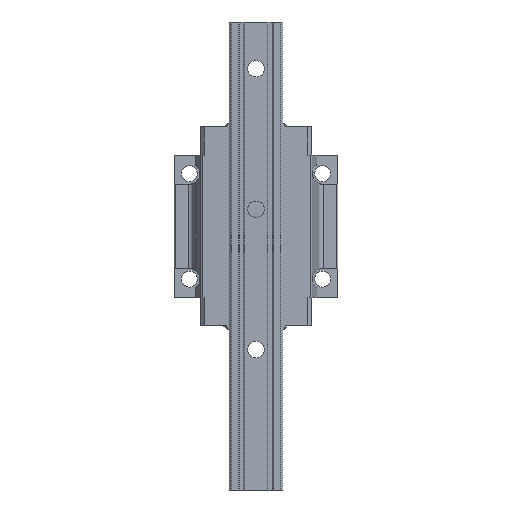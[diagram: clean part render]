
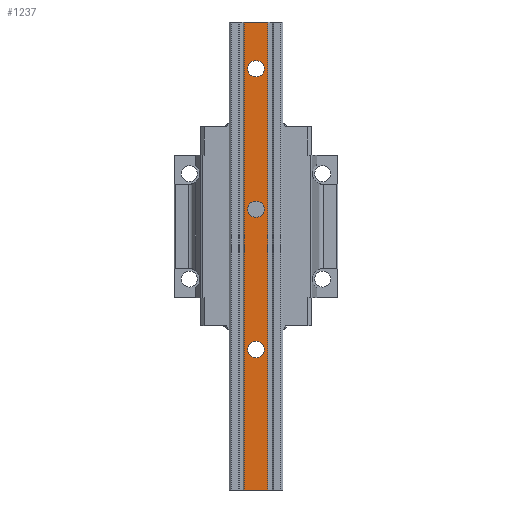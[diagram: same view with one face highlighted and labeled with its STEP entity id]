
A CAD part, front view. The second image highlights one B-rep face of the part: STEP entity #1237.
In plain terms, the highlighted planar face has unit normal (0, -1, 0).
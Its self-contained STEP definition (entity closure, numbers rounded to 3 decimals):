
#1237=ADVANCED_FACE('',(#3531,#3532,#3533,#3534),#1745,.F.);
#1745=PLANE('',#9448);
#1977=LINE('',#12319,#2697);
#1978=LINE('',#12322,#2698);
#1979=LINE('',#12324,#2699);
#1980=LINE('',#12326,#2700);
#2697=VECTOR('',#10130,1.);
#2698=VECTOR('',#10131,1.);
#2699=VECTOR('',#10132,1.);
#2700=VECTOR('',#10133,1.);
#3531=FACE_BOUND('',#3705,.T.);
#3532=FACE_BOUND('',#3706,.T.);
#3533=FACE_BOUND('',#3707,.T.);
#3534=FACE_BOUND('',#3708,.T.);
#3705=EDGE_LOOP('',(#4311));
#3706=EDGE_LOOP('',(#4312));
#3707=EDGE_LOOP('',(#4313));
#3708=EDGE_LOOP('',(#4314,#4315,#4316,#4317));
#4311=ORIENTED_EDGE('',*,*,#7844,.F.);
#4312=ORIENTED_EDGE('',*,*,#7845,.F.);
#4313=ORIENTED_EDGE('',*,*,#7846,.F.);
#4314=ORIENTED_EDGE('',*,*,#7847,.F.);
#4315=ORIENTED_EDGE('',*,*,#7848,.T.);
#4316=ORIENTED_EDGE('',*,*,#7849,.T.);
#4317=ORIENTED_EDGE('',*,*,#7850,.F.);
#6941=VERTEX_POINT('',#12314);
#6942=VERTEX_POINT('',#12316);
#6943=VERTEX_POINT('',#12318);
#6944=VERTEX_POINT('',#12320);
#6945=VERTEX_POINT('',#12321);
#6946=VERTEX_POINT('',#12323);
#6947=VERTEX_POINT('',#12325);
#7844=EDGE_CURVE('',#6941,#6941,#9159,.T.);
#7845=EDGE_CURVE('',#6942,#6942,#9160,.T.);
#7846=EDGE_CURVE('',#6943,#6943,#9161,.T.);
#7847=EDGE_CURVE('',#6944,#6945,#1977,.T.);
#7848=EDGE_CURVE('',#6944,#6946,#1978,.T.);
#7849=EDGE_CURVE('',#6946,#6947,#1979,.T.);
#7850=EDGE_CURVE('',#6945,#6947,#1980,.T.);
#9159=CIRCLE('',#9445,3.5);
#9160=CIRCLE('',#9446,3.5);
#9161=CIRCLE('',#9447,3.5);
#9445=AXIS2_PLACEMENT_3D('',#12313,#10124,#10125);
#9446=AXIS2_PLACEMENT_3D('',#12315,#10126,#10127);
#9447=AXIS2_PLACEMENT_3D('',#12317,#10128,#10129);
#9448=AXIS2_PLACEMENT_3D('',#12327,#10134,#10135);
#10124=DIRECTION('',(0.,-1.,0.));
#10125=DIRECTION('',(0.,0.,-1.));
#10126=DIRECTION('',(0.,-1.,0.));
#10127=DIRECTION('',(0.,0.,-1.));
#10128=DIRECTION('',(0.,-1.,0.));
#10129=DIRECTION('',(0.,0.,-1.));
#10130=DIRECTION('',(1.,0.,0.));
#10131=DIRECTION('',(0.,0.,-1.));
#10132=DIRECTION('',(1.,0.,0.));
#10133=DIRECTION('',(0.,0.,-1.));
#10134=DIRECTION('',(0.,1.,0.));
#10135=DIRECTION('',(0.,0.,1.));
#12313=CARTESIAN_POINT('',(-8.214,-11.249,250.));
#12314=CARTESIAN_POINT('',(-8.214,-11.249,246.5));
#12315=CARTESIAN_POINT('',(-8.214,-11.249,190.));
#12316=CARTESIAN_POINT('',(-8.214,-11.249,186.5));
#12317=CARTESIAN_POINT('',(-8.214,-11.249,130.));
#12318=CARTESIAN_POINT('',(-8.214,-11.249,126.5));
#12319=CARTESIAN_POINT('',(23.051,-11.249,270.));
#12320=CARTESIAN_POINT('',(-13.214,-11.249,270.));
#12321=CARTESIAN_POINT('',(-3.214,-11.249,270.));
#12322=CARTESIAN_POINT('',(-13.214,-11.249,454.));
#12323=CARTESIAN_POINT('',(-13.214,-11.249,70.));
#12324=CARTESIAN_POINT('',(-8.214,-11.249,70.));
#12325=CARTESIAN_POINT('',(-3.214,-11.249,70.));
#12326=CARTESIAN_POINT('',(-3.214,-11.249,454.));
#12327=CARTESIAN_POINT('',(-8.214,-11.249,454.));
